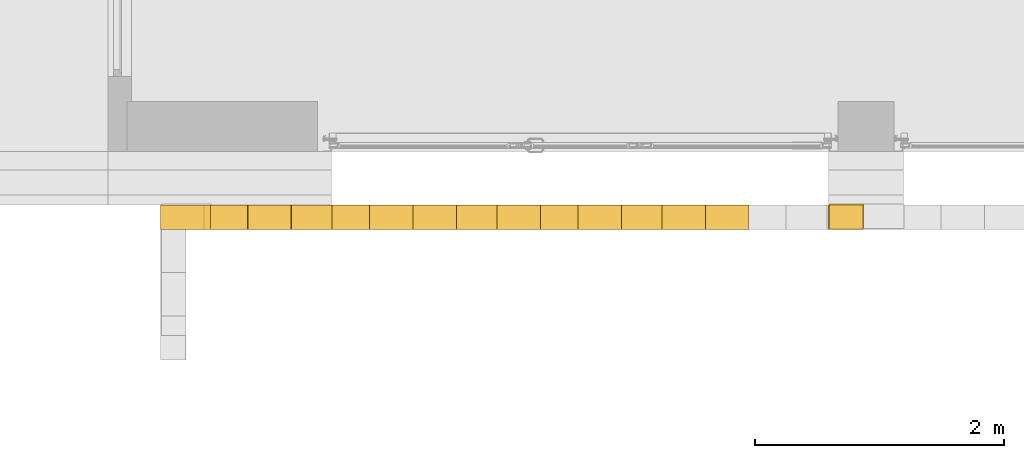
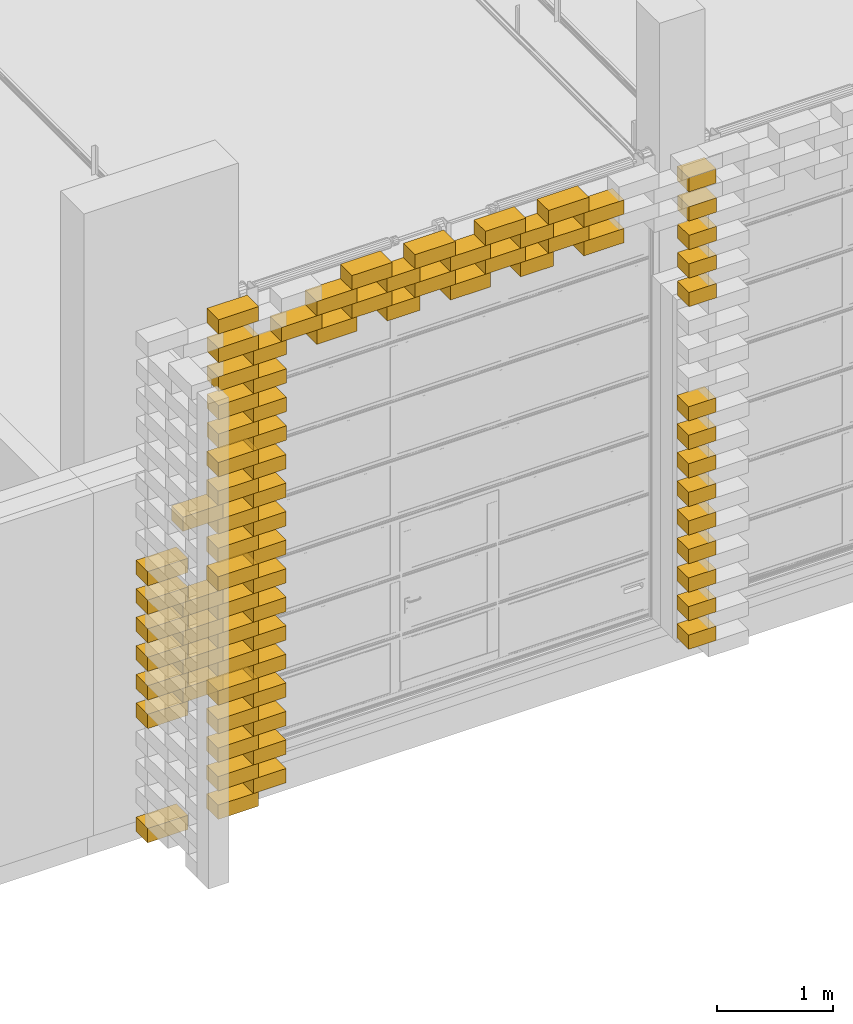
# One storey, part 51 of 62: 82 railings.
"""IFC2X3 building model written with IfcOpenShell, lengths in millimetres."""

from ifc_helpers import new_model, entity, si_unit, converted_unit, derived_unit, money_unit, direction, frame, origin_with_axes, place, context, subcontext, project, spatial, polyline, outline, extrude, material, type_object, element, save


model = new_model("IFC2X3")

# Units and contexts
model_context = context("Model", 3, precision=0.01, world=origin_with_axes(), true_north=direction((0.0, 1.0)))
body_context = subcontext(model_context, "Body", "Model", "MODEL_VIEW")
ifc_project = project(units=[si_unit("LENGTHUNIT", "METRE", prefix="MILLI"), si_unit("AREAUNIT", "SQUARE_METRE"), si_unit("VOLUMEUNIT", "CUBIC_METRE"), converted_unit("PLANEANGLEUNIT", "DEGREE", entity("IfcPlaneAngleMeasure", 0.0174532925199), si_unit("PLANEANGLEUNIT", "RADIAN"), dimensions=[0, 0, 0, 0, 0, 0, 0]), si_unit("SOLIDANGLEUNIT", "STERADIAN"), money_unit("EUR"), converted_unit("TIMEUNIT", "Year", entity("IfcTimeMeasure", 31556926.0), si_unit("TIMEUNIT", "SECOND"), dimensions=[0, 0, 1, 0, 0, 0, 0]), si_unit("MASSUNIT", "GRAM", prefix="KILO"), si_unit("THERMODYNAMICTEMPERATUREUNIT", "DEGREE_CELSIUS"), si_unit("LUMINOUSINTENSITYUNIT", "LUMEN"), si_unit("ENERGYUNIT", "JOULE", prefix="MEGA"), derived_unit("THERMALCONDUCTANCEUNIT", [(si_unit("POWERUNIT", "WATT"), 1), (si_unit("LENGTHUNIT", "METRE"), -1), (si_unit("THERMODYNAMICTEMPERATUREUNIT", "KELVIN"), -1)]), derived_unit("SPECIFICHEATCAPACITYUNIT", [(si_unit("ENERGYUNIT", "JOULE"), 1), (si_unit("MASSUNIT", "GRAM", prefix="KILO"), -1), (si_unit("THERMODYNAMICTEMPERATUREUNIT", "KELVIN"), -1)]), derived_unit("MASSDENSITYUNIT", [(si_unit("MASSUNIT", "GRAM", prefix="KILO"), 1), (si_unit("VOLUMEUNIT", "CUBIC_METRE"), -1)])], contexts=[model_context])

# Site, building, storey
site_placement = place(None, origin_with_axes())
site = spatial("IfcSite", under=ifc_project, at=site_placement, Name="KIRDE 14, ELVA", CompositionType="ELEMENT")
building_placement = place(site_placement, origin_with_axes())
building = spatial("IfcBuilding", under=site, at=building_placement, Name="PPA ja Päästeameti ühishoone", CompositionType="ELEMENT")
storey_placement = place(building_placement, origin_with_axes())
storey = spatial("IfcBuildingStorey", under=building, at=storey_placement, Name="Esimene korrus", CompositionType="ELEMENT", Elevation=0.0)

# Railings
ifc_material = material(Name="Air Space")
railing_type = type_object("IfcRailingType", Name="Air Space 200", PredefinedType="NOTDEFINED")
for number, where, z_axis, x_axis in (
    (1, (13308.1818226, -431.000101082, 5000.0), (0.0, 0.0, 1.0), (1.0, -2.32830643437e-09, 0.0)),
    (2, (10022.968101, -431.000104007, 1100.0), (0.0, 0.0, 1.0), (1.0, -2.32830643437e-09, 0.0)),
):
    element("IfcRailing", number, at=place(storey_placement, frame(where, z_axis=z_axis, x_axis=x_axis)), inside=storey, type_object=railing_type, material=ifc_material, Name="plokk", PredefinedType="NOTDEFINED", context=body_context, shape_type="SweptSolid", body=[
        extrude(outline(polyline([(0.0, -200.0), (400.000000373, -200.0), (400.000000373, 0.0), (0.0, 0.0), (0.0, -200.0)])), origin_with_axes(), (0.0, 0.0, 1.0), 150.0),
    ])
railing_1_placement = place(storey_placement, frame((11703.772551, -431.000104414, 4550.0), z_axis=(0.0, 0.0, 1.0), x_axis=(1.0, 0.0, 0.0)))
element("IfcRailing", 3, at=railing_1_placement, inside=storey, type_object=railing_type, material=ifc_material, Name="plokk", PredefinedType="NOTDEFINED", context=body_context, shape_type="SweptSolid", body=[
    extrude(outline(polyline([(0.0, -200.0), (327.204635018, -200.0), (327.204635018, 0.0), (0.0, 0.0), (0.0, -200.0)])), origin_with_axes(), (0.0, 0.0, 1.0), 150.0),
])
for number, where, z_axis, x_axis in (
    (4, (14700.1727363, -431.000104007, 50.0), (0.0, 0.0, 1.0), (1.0, 0.0, 0.0)),
    (5, (14700.1727363, -431.000104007, 950.0), (0.0, 0.0, 1.0), (1.0, 0.0, 0.0)),
    (6, (14700.1727363, -431.000104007, 650.0), (0.0, 0.0, 1.0), (1.0, 0.0, 0.0)),
):
    element("IfcRailing", number, at=place(storey_placement, frame(where, z_axis=z_axis, x_axis=x_axis)), inside=storey, type_object=railing_type, material=ifc_material, Name="plokk", PredefinedType="NOTDEFINED", context=body_context, shape_type="SweptSolid", body=[
        extrude(outline(polyline([(0.0, -200.0), (272.79536461, -200.0), (272.79536461, 0.0), (0.0, 0.0), (0.0, -200.0)])), origin_with_axes(), (0.0, 0.0, 1.0), 150.0),
    ])
railing_2_placement = place(storey_placement, frame((11703.772551, -431.000104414, 4850.0), z_axis=(0.0, 0.0, 1.0), x_axis=(1.0, 0.0, 0.0)))
element("IfcRailing", 7, at=railing_2_placement, inside=storey, type_object=railing_type, material=ifc_material, Name="plokk", PredefinedType="NOTDEFINED", context=body_context, shape_type="SweptSolid", body=[
    extrude(outline(polyline([(0.0, -200.0), (327.204635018, -200.0), (327.204635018, 0.0), (0.0, 0.0), (0.0, -200.0)])), origin_with_axes(), (0.0, 0.0, 1.0), 150.0),
])
for number, where, z_axis, x_axis in (
    (8, (14700.1727363, -431.000104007, 350.0), (0.0, 0.0, 1.0), (1.0, 0.0, 0.0)),
    (9, (14700.1727363, -431.000104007, 2450.0), (0.0, 0.0, 1.0), (1.0, 0.0, 0.0)),
):
    element("IfcRailing", number, at=place(storey_placement, frame(where, z_axis=z_axis, x_axis=x_axis)), inside=storey, type_object=railing_type, material=ifc_material, Name="plokk", PredefinedType="NOTDEFINED", context=body_context, shape_type="SweptSolid", body=[
        extrude(outline(polyline([(0.0, -200.0), (272.79536461, -200.0), (272.79536461, 0.0), (0.0, 0.0), (0.0, -200.0)])), origin_with_axes(), (0.0, 0.0, 1.0), 150.0),
    ])
railing_3_placement = place(storey_placement, frame((10026.567915, -431.000104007, 3500.0), z_axis=(0.0, 0.0, 1.0), x_axis=(1.0, -2.32830643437e-09, 0.0)))
element("IfcRailing", 10, at=railing_3_placement, inside=storey, type_object=railing_type, material=ifc_material, Name="plokk", PredefinedType="NOTDEFINED", context=body_context, shape_type="SweptSolid", body=[
    extrude(outline(polyline([(0.0, -200.0), (400.000000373, -200.0), (400.000000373, 0.0), (0.0, 0.0), (0.0, -200.0)])), origin_with_axes(), (0.0, 0.0, 1.0), 150.0),
])
railing_4_placement = place(storey_placement, frame((10372.9681008, -431.000104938, 3350.0), z_axis=(0.0, 0.0, 1.0), x_axis=(1.0, 0.0, 0.0)))
element("IfcRailing", 11, at=railing_4_placement, inside=storey, type_object=railing_type, material=ifc_material, Name="plokk", PredefinedType="NOTDEFINED", context=body_context, shape_type="SweptSolid", body=[
    extrude(outline(polyline([(0.0, -200.0), (327.204635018, -200.0), (327.204635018, 0.0), (0.0, 0.0), (0.0, -200.0)])), origin_with_axes(), (0.0, 0.0, 1.0), 150.0),
])
railing_5_placement = place(storey_placement, frame((14706.7115344, -422.760602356, 4850.0), z_axis=(0.0, 0.0, 1.0), x_axis=(1.0, 0.0, 0.0)))
element("IfcRailing", 12, at=railing_5_placement, inside=storey, type_object=railing_type, material=ifc_material, Name="plokk", PredefinedType="NOTDEFINED", context=body_context, shape_type="SweptSolid", body=[
    extrude(outline(polyline([(0.0, -200.0), (272.79536461, -200.0), (272.79536461, 0.0), (0.0, 0.0), (0.0, -200.0)])), origin_with_axes(), (0.0, 0.0, 1.0), 150.0),
])
railing_6_placement = place(storey_placement, frame((10372.9681008, -431.000104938, 2450.0), z_axis=(0.0, 0.0, 1.0), x_axis=(1.0, 0.0, 0.0)))
element("IfcRailing", 13, at=railing_6_placement, inside=storey, type_object=railing_type, material=ifc_material, Name="plokk", PredefinedType="NOTDEFINED", context=body_context, shape_type="SweptSolid", body=[
    extrude(outline(polyline([(0.0, -200.0), (327.204635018, -200.0), (327.204635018, 0.0), (0.0, 0.0), (0.0, -200.0)])), origin_with_axes(), (0.0, 0.0, 1.0), 150.0),
])
for number, where, z_axis, x_axis in (
    (14, (10026.567915, -431.000104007, 3800.0), (0.0, 0.0, 1.0), (1.0, -2.32830643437e-09, 0.0)),
    (15, (10026.567915, -431.000104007, 4100.0), (0.0, 0.0, 1.0), (1.0, -2.32830643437e-09, 0.0)),
    (16, (10026.567915, -431.000104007, 4400.0), (0.0, 0.0, 1.0), (1.0, -2.32830643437e-09, 0.0)),
):
    element("IfcRailing", number, at=place(storey_placement, frame(where, z_axis=z_axis, x_axis=x_axis)), inside=storey, type_object=railing_type, material=ifc_material, Name="plokk", PredefinedType="NOTDEFINED", context=body_context, shape_type="SweptSolid", body=[
        extrude(outline(polyline([(0.0, -200.0), (400.000000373, -200.0), (400.000000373, 0.0), (0.0, 0.0), (0.0, -200.0)])), origin_with_axes(), (0.0, 0.0, 1.0), 150.0),
    ])
railing_7_placement = place(storey_placement, frame((10376.5679148, -431.000104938, 3650.0), z_axis=(0.0, 0.0, 1.0), x_axis=(1.0, 0.0, 0.0)))
element("IfcRailing", 17, at=railing_7_placement, inside=storey, type_object=railing_type, material=ifc_material, Name="plokk", PredefinedType="NOTDEFINED", context=body_context, shape_type="SweptSolid", body=[
    extrude(outline(polyline([(0.0, -200.0), (327.204635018, -200.0), (327.204635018, 0.0), (0.0, 0.0), (0.0, -200.0)])), origin_with_axes(), (0.0, 0.0, 1.0), 150.0),
])
railing_8_placement = place(storey_placement, frame((10026.567915, -431.000104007, 4700.0), z_axis=(0.0, 0.0, 1.0), x_axis=(1.0, -2.32830643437e-09, 0.0)))
element("IfcRailing", 18, at=railing_8_placement, inside=storey, type_object=railing_type, material=ifc_material, Name="plokk", PredefinedType="NOTDEFINED", context=body_context, shape_type="SweptSolid", body=[
    extrude(outline(polyline([(0.0, -200.0), (400.000000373, -200.0), (400.000000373, 0.0), (0.0, 0.0), (0.0, -200.0)])), origin_with_axes(), (0.0, 0.0, 1.0), 150.0),
])
for number, where, z_axis, x_axis in (
    (19, (10376.5679148, -431.000104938, 3950.0), (0.0, 0.0, 1.0), (1.0, 0.0, 0.0)),
    (20, (10376.5679148, -431.000104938, 4250.0), (0.0, 0.0, 1.0), (1.0, 0.0, 0.0)),
    (21, (10376.5679148, -431.000104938, 4550.0), (0.0, 0.0, 1.0), (1.0, 0.0, 0.0)),
):
    element("IfcRailing", number, at=place(storey_placement, frame(where, z_axis=z_axis, x_axis=x_axis)), inside=storey, type_object=railing_type, material=ifc_material, Name="plokk", PredefinedType="NOTDEFINED", context=body_context, shape_type="SweptSolid", body=[
        extrude(outline(polyline([(0.0, -200.0), (327.204635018, -200.0), (327.204635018, 0.0), (0.0, 0.0), (0.0, -200.0)])), origin_with_axes(), (0.0, 0.0, 1.0), 150.0),
    ])
railing_9_placement = place(storey_placement, frame((10653.7725501, -431.000102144, 4700.0), z_axis=(0.0, 0.0, 1.0), x_axis=(1.0, -2.32830643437e-09, 0.0)))
element("IfcRailing", 22, at=railing_9_placement, inside=storey, type_object=railing_type, material=ifc_material, Name="plokk", PredefinedType="NOTDEFINED", context=body_context, shape_type="SweptSolid", body=[
    extrude(outline(polyline([(0.0, -200.0), (400.000000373, -200.0), (400.000000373, 0.0), (0.0, 0.0), (0.0, -200.0)])), origin_with_axes(), (0.0, 0.0, 1.0), 150.0),
])
railing_10_placement = place(storey_placement, frame((14703.7725503, -431.000104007, 3650.0), z_axis=(0.0, 0.0, 1.0), x_axis=(1.0, 0.0, 0.0)))
element("IfcRailing", 23, at=railing_10_placement, inside=storey, type_object=railing_type, material=ifc_material, Name="plokk", PredefinedType="NOTDEFINED", context=body_context, shape_type="SweptSolid", body=[
    extrude(outline(polyline([(0.0, -200.0), (272.79536461, -200.0), (272.79536461, 0.0), (0.0, 0.0), (0.0, -200.0)])), origin_with_axes(), (0.0, 0.0, 1.0), 150.0),
])
railing_11_placement = place(storey_placement, frame((10372.9681008, -431.000104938, 3050.0), z_axis=(0.0, 0.0, 1.0), x_axis=(1.0, 0.0, 0.0)))
element("IfcRailing", 24, at=railing_11_placement, inside=storey, type_object=railing_type, material=ifc_material, Name="plokk", PredefinedType="NOTDEFINED", context=body_context, shape_type="SweptSolid", body=[
    extrude(outline(polyline([(0.0, -200.0), (327.204635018, -200.0), (327.204635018, 0.0), (0.0, 0.0), (0.0, -200.0)])), origin_with_axes(), (0.0, 0.0, 1.0), 150.0),
])
for number, where, z_axis, x_axis in (
    (25, (14703.7725503, -431.000104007, 4550.0), (0.0, 0.0, 1.0), (1.0, 0.0, 0.0)),
    (26, (14703.7725503, -431.000104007, 4250.0), (0.0, 0.0, 1.0), (1.0, 0.0, 0.0)),
    (27, (14703.7725503, -431.000104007, 3950.0), (0.0, 0.0, 1.0), (1.0, 0.0, 0.0)),
):
    element("IfcRailing", number, at=place(storey_placement, frame(where, z_axis=z_axis, x_axis=x_axis)), inside=storey, type_object=railing_type, material=ifc_material, Name="plokk", PredefinedType="NOTDEFINED", context=body_context, shape_type="SweptSolid", body=[
        extrude(outline(polyline([(0.0, -200.0), (272.79536461, -200.0), (272.79536461, 0.0), (0.0, 0.0), (0.0, -200.0)])), origin_with_axes(), (0.0, 0.0, 1.0), 150.0),
    ])
for number, where, z_axis, x_axis in (
    (28, (10026.567915, -431.000104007, 5000.0), (0.0, 0.0, 1.0), (1.0, -2.32830643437e-09, 0.0)),
    (29, (10022.968101, -431.000104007, 500.0), (0.0, 0.0, 1.0), (1.0, -2.32830643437e-09, 0.0)),
    (30, (10022.968101, -431.000104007, 800.0), (0.0, 0.0, 1.0), (1.0, -2.32830643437e-09, 0.0)),
):
    element("IfcRailing", number, at=place(storey_placement, frame(where, z_axis=z_axis, x_axis=x_axis)), inside=storey, type_object=railing_type, material=ifc_material, Name="plokk", PredefinedType="NOTDEFINED", context=body_context, shape_type="SweptSolid", body=[
        extrude(outline(polyline([(0.0, -200.0), (400.000000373, -200.0), (400.000000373, 0.0), (0.0, 0.0), (0.0, -200.0)])), origin_with_axes(), (0.0, 0.0, 1.0), 150.0),
    ])
railing_12_placement = place(storey_placement, frame((12330.977188, -431.000104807, 4850.0), z_axis=(0.0, 0.0, 1.0), x_axis=(1.0, -2.32830643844e-09, 0.0)))
element("IfcRailing", 31, at=railing_12_placement, inside=storey, type_object=railing_type, material=ifc_material, Name="plokk", PredefinedType="NOTDEFINED", context=body_context, shape_type="SweptSolid", body=[
    extrude(outline(polyline([(0.0, -200.0), (399.999999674, -200.0), (399.999999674, 0.0), (0.0, 0.0), (0.0, -200.0)])), origin_with_axes(), (0.0, 0.0, 1.0), 150.0),
])
for number, where, z_axis, x_axis in (
    (32, (10022.968101, -431.000104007, 200.0), (0.0, 0.0, 1.0), (1.0, -2.32830643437e-09, 0.0)),
    (33, (10022.968101, -431.000104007, 2300.0), (0.0, 0.0, 1.0), (1.0, -2.32830643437e-09, 0.0)),
):
    element("IfcRailing", number, at=place(storey_placement, frame(where, z_axis=z_axis, x_axis=x_axis)), inside=storey, type_object=railing_type, material=ifc_material, Name="plokk", PredefinedType="NOTDEFINED", context=body_context, shape_type="SweptSolid", body=[
        extrude(outline(polyline([(0.0, -200.0), (400.000000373, -200.0), (400.000000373, 0.0), (0.0, 0.0), (0.0, -200.0)])), origin_with_axes(), (0.0, 0.0, 1.0), 150.0),
    ])
railing_13_placement = place(storey_placement, frame((13658.1818243, -431.000104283, 4550.0), z_axis=(0.0, 0.0, 1.0), x_axis=(1.0, -2.32830643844e-09, 0.0)))
element("IfcRailing", 34, at=railing_13_placement, inside=storey, type_object=railing_type, material=ifc_material, Name="plokk", PredefinedType="NOTDEFINED", context=body_context, shape_type="SweptSolid", body=[
    extrude(outline(polyline([(0.0, -200.0), (399.999999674, -200.0), (399.999999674, 0.0), (0.0, 0.0), (0.0, -200.0)])), origin_with_axes(), (0.0, 0.0, 1.0), 150.0),
])
railing_14_placement = place(storey_placement, frame((13308.1818226, -431.000101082, 4700.0), z_axis=(0.0, 0.0, 1.0), x_axis=(1.0, -2.32830643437e-09, 0.0)))
element("IfcRailing", 35, at=railing_14_placement, inside=storey, type_object=railing_type, material=ifc_material, Name="plokk", PredefinedType="NOTDEFINED", context=body_context, shape_type="SweptSolid", body=[
    extrude(outline(polyline([(0.0, -200.0), (400.000000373, -200.0), (400.000000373, 0.0), (0.0, 0.0), (0.0, -200.0)])), origin_with_axes(), (0.0, 0.0, 1.0), 150.0),
])
railing_15_placement = place(storey_placement, frame((10372.9681008, -431.000104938, 2750.0), z_axis=(0.0, 0.0, 1.0), x_axis=(1.0, 0.0, 0.0)))
element("IfcRailing", 36, at=railing_15_placement, inside=storey, type_object=railing_type, material=ifc_material, Name="plokk", PredefinedType="NOTDEFINED", context=body_context, shape_type="SweptSolid", body=[
    extrude(outline(polyline([(0.0, -200.0), (327.204635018, -200.0), (327.204635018, 0.0), (0.0, 0.0), (0.0, -200.0)])), origin_with_axes(), (0.0, 0.0, 1.0), 150.0),
])
railing_16_placement = place(storey_placement, frame((10022.968101, -431.000104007, 3500.0), z_axis=(0.0, 0.0, 1.0), x_axis=(1.0, -2.32830643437e-09, 0.0)))
element("IfcRailing", 37, at=railing_16_placement, inside=storey, type_object=railing_type, material=ifc_material, Name="plokk", PredefinedType="NOTDEFINED", context=body_context, shape_type="SweptSolid", body=[
    extrude(outline(polyline([(0.0, -200.0), (400.000000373, -200.0), (400.000000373, 0.0), (0.0, 0.0), (0.0, -200.0)])), origin_with_axes(), (0.0, 0.0, 1.0), 150.0),
])
railing_17_placement = place(storey_placement, frame((13030.9771873, -431.000103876, 4850.0), z_axis=(0.0, 0.0, 1.0), x_axis=(1.0, 0.0, 0.0)))
element("IfcRailing", 38, at=railing_17_placement, inside=storey, type_object=railing_type, material=ifc_material, Name="plokk", PredefinedType="NOTDEFINED", context=body_context, shape_type="SweptSolid", body=[
    extrude(outline(polyline([(0.0, -200.0), (327.204635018, -200.0), (327.204635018, 0.0), (0.0, 0.0), (0.0, -200.0)])), origin_with_axes(), (0.0, 0.0, 1.0), 150.0),
])
railing_18_placement = place(storey_placement, frame((12680.9771875, -431.000102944, 5000.0), z_axis=(0.0, 0.0, 1.0), x_axis=(1.0, -2.32830643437e-09, 0.0)))
element("IfcRailing", 39, at=railing_18_placement, inside=storey, type_object=railing_type, material=ifc_material, Name="plokk", PredefinedType="NOTDEFINED", context=body_context, shape_type="SweptSolid", body=[
    extrude(outline(polyline([(0.0, -200.0), (400.000000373, -200.0), (400.000000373, 0.0), (0.0, 0.0), (0.0, -200.0)])), origin_with_axes(), (0.0, 0.0, 1.0), 150.0),
])
for number, where, z_axis, x_axis in (
    (40, (14700.1727363, -431.000104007, 1550.0), (0.0, 0.0, 1.0), (1.0, 0.0, 0.0)),
    (41, (14700.1727363, -431.000104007, 1250.0), (0.0, 0.0, 1.0), (1.0, 0.0, 0.0)),
    (42, (14700.1727363, -431.000104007, 1850.0), (0.0, 0.0, 1.0), (1.0, 0.0, 0.0)),
):
    element("IfcRailing", number, at=place(storey_placement, frame(where, z_axis=z_axis, x_axis=x_axis)), inside=storey, type_object=railing_type, material=ifc_material, Name="plokk", PredefinedType="NOTDEFINED", context=body_context, shape_type="SweptSolid", body=[
        extrude(outline(polyline([(0.0, -200.0), (272.79536461, -200.0), (272.79536461, 0.0), (0.0, 0.0), (0.0, -200.0)])), origin_with_axes(), (0.0, 0.0, 1.0), 150.0),
    ])
railing_19_placement = place(storey_placement, frame((11980.9771864, -431.00010162, 5000.0), z_axis=(0.0, 0.0, 1.0), x_axis=(1.0, -2.32830643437e-09, 0.0)))
element("IfcRailing", 43, at=railing_19_placement, inside=storey, type_object=railing_type, material=ifc_material, Name="plokk", PredefinedType="NOTDEFINED", context=body_context, shape_type="SweptSolid", body=[
    extrude(outline(polyline([(0.0, -200.0), (400.000000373, -200.0), (400.000000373, 0.0), (0.0, 0.0), (0.0, -200.0)])), origin_with_axes(), (0.0, 0.0, 1.0), 150.0),
])
railing_20_placement = place(storey_placement, frame((11003.7725518, -431.000105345, 4850.0), z_axis=(0.0, 0.0, 1.0), x_axis=(1.0, -2.32830643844e-09, 0.0)))
element("IfcRailing", 44, at=railing_20_placement, inside=storey, type_object=railing_type, material=ifc_material, Name="plokk", PredefinedType="NOTDEFINED", context=body_context, shape_type="SweptSolid", body=[
    extrude(outline(polyline([(0.0, -200.0), (399.999999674, -200.0), (399.999999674, 0.0), (0.0, 0.0), (0.0, -200.0)])), origin_with_axes(), (0.0, 0.0, 1.0), 150.0),
])
for number, where, z_axis, x_axis in (
    (45, (10022.968101, -431.000104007, 2900.0), (0.0, 0.0, 1.0), (1.0, -2.32830643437e-09, 0.0)),
    (46, (11353.7725513, -431.000103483, 5000.0), (0.0, 0.0, 1.0), (1.0, -2.32830643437e-09, 0.0)),
):
    element("IfcRailing", number, at=place(storey_placement, frame(where, z_axis=z_axis, x_axis=x_axis)), inside=storey, type_object=railing_type, material=ifc_material, Name="plokk", PredefinedType="NOTDEFINED", context=body_context, shape_type="SweptSolid", body=[
        extrude(outline(polyline([(0.0, -200.0), (400.000000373, -200.0), (400.000000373, 0.0), (0.0, 0.0), (0.0, -200.0)])), origin_with_axes(), (0.0, 0.0, 1.0), 150.0),
    ])
railing_21_placement = place(storey_placement, frame((13030.9771873, -431.000103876, 4550.0), z_axis=(0.0, 0.0, 1.0), x_axis=(1.0, 0.0, 0.0)))
element("IfcRailing", 47, at=railing_21_placement, inside=storey, type_object=railing_type, material=ifc_material, Name="plokk", PredefinedType="NOTDEFINED", context=body_context, shape_type="SweptSolid", body=[
    extrude(outline(polyline([(0.0, -200.0), (327.204635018, -200.0), (327.204635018, 0.0), (0.0, 0.0), (0.0, -200.0)])), origin_with_axes(), (0.0, 0.0, 1.0), 150.0),
])
railing_22_placement = place(storey_placement, frame((12680.9771875, -431.000102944, 4700.0), z_axis=(0.0, 0.0, 1.0), x_axis=(1.0, -2.32830643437e-09, 0.0)))
element("IfcRailing", 48, at=railing_22_placement, inside=storey, type_object=railing_type, material=ifc_material, Name="plokk", PredefinedType="NOTDEFINED", context=body_context, shape_type="SweptSolid", body=[
    extrude(outline(polyline([(0.0, -200.0), (400.000000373, -200.0), (400.000000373, 0.0), (0.0, 0.0), (0.0, -200.0)])), origin_with_axes(), (0.0, 0.0, 1.0), 150.0),
])
railing_23_placement = place(storey_placement, frame((14700.1727363, -431.000104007, 2150.0), z_axis=(0.0, 0.0, 1.0), x_axis=(1.0, 0.0, 0.0)))
element("IfcRailing", 49, at=railing_23_placement, inside=storey, type_object=railing_type, material=ifc_material, Name="plokk", PredefinedType="NOTDEFINED", context=body_context, shape_type="SweptSolid", body=[
    extrude(outline(polyline([(0.0, -200.0), (272.79536461, -200.0), (272.79536461, 0.0), (0.0, 0.0), (0.0, -200.0)])), origin_with_axes(), (0.0, 0.0, 1.0), 150.0),
])
railing_24_placement = place(storey_placement, frame((11003.7725518, -431.000105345, 4550.0), z_axis=(0.0, 0.0, 1.0), x_axis=(1.0, -2.32830643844e-09, 0.0)))
element("IfcRailing", 50, at=railing_24_placement, inside=storey, type_object=railing_type, material=ifc_material, Name="plokk", PredefinedType="NOTDEFINED", context=body_context, shape_type="SweptSolid", body=[
    extrude(outline(polyline([(0.0, -200.0), (399.999999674, -200.0), (399.999999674, 0.0), (0.0, 0.0), (0.0, -200.0)])), origin_with_axes(), (0.0, 0.0, 1.0), 150.0),
])
railing_25_placement = place(storey_placement, frame((10022.968101, -431.000104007, 3200.0), z_axis=(0.0, 0.0, 1.0), x_axis=(1.0, -2.32830643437e-09, 0.0)))
element("IfcRailing", 51, at=railing_25_placement, inside=storey, type_object=railing_type, material=ifc_material, Name="plokk", PredefinedType="NOTDEFINED", context=body_context, shape_type="SweptSolid", body=[
    extrude(outline(polyline([(0.0, -200.0), (400.000000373, -200.0), (400.000000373, 0.0), (0.0, 0.0), (0.0, -200.0)])), origin_with_axes(), (0.0, 0.0, 1.0), 150.0),
])
for number, where, z_axis, x_axis in (
    (52, (10372.9681008, -431.000104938, 950.0), (0.0, 0.0, 1.0), (1.0, 0.0, 0.0)),
    (53, (10372.9681008, -431.000104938, 650.0), (0.0, 0.0, 1.0), (1.0, 0.0, 0.0)),
    (54, (10372.9681008, -431.000104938, 350.0), (0.0, 0.0, 1.0), (1.0, 0.0, 0.0)),
    (55, (10372.9681008, -431.000104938, 50.0), (0.0, 0.0, 1.0), (1.0, 0.0, 0.0)),
):
    element("IfcRailing", number, at=place(storey_placement, frame(where, z_axis=z_axis, x_axis=x_axis)), inside=storey, type_object=railing_type, material=ifc_material, Name="plokk", PredefinedType="NOTDEFINED", context=body_context, shape_type="SweptSolid", body=[
        extrude(outline(polyline([(0.0, -200.0), (327.204635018, -200.0), (327.204635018, 0.0), (0.0, 0.0), (0.0, -200.0)])), origin_with_axes(), (0.0, 0.0, 1.0), 150.0),
    ])
for number, where, z_axis, x_axis in (
    (56, (11353.7725513, -431.000103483, 4700.0), (0.0, 0.0, 1.0), (1.0, -2.32830643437e-09, 0.0)),
    (57, (11980.9771864, -431.00010162, 4700.0), (0.0, 0.0, 1.0), (1.0, -2.32830643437e-09, 0.0)),
    (58, (10022.968101, -431.000104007, -100.0), (0.0, 0.0, 1.0), (1.0, -2.32830643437e-09, 0.0)),
):
    element("IfcRailing", number, at=place(storey_placement, frame(where, z_axis=z_axis, x_axis=x_axis)), inside=storey, type_object=railing_type, material=ifc_material, Name="plokk", PredefinedType="NOTDEFINED", context=body_context, shape_type="SweptSolid", body=[
        extrude(outline(polyline([(0.0, -200.0), (400.000000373, -200.0), (400.000000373, 0.0), (0.0, 0.0), (0.0, -200.0)])), origin_with_axes(), (0.0, 0.0, 1.0), 150.0),
    ])
railing_26_placement = place(storey_placement, frame((9322.96810061, -431.000104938, -100.0), z_axis=(0.0, 0.0, 1.0), x_axis=(1.0, -2.32830643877e-09, 0.0)))
element("IfcRailing", 59, at=railing_26_placement, inside=storey, type_object=railing_type, material=ifc_material, Name="plokk", PredefinedType="NOTDEFINED", context=body_context, shape_type="SweptSolid", body=[
    extrude(outline(polyline([(0.0, -200.0), (399.999999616, -200.0), (399.999999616, 0.0), (0.0, 0.0), (0.0, -200.0)])), origin_with_axes(), (0.0, 0.0, 1.0), 150.0),
])
railing_27_placement = place(storey_placement, frame((13658.1818243, -431.000104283, 4850.0), z_axis=(0.0, 0.0, 1.0), x_axis=(1.0, -2.32830643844e-09, 0.0)))
element("IfcRailing", 60, at=railing_27_placement, inside=storey, type_object=railing_type, material=ifc_material, Name="plokk", PredefinedType="NOTDEFINED", context=body_context, shape_type="SweptSolid", body=[
    extrude(outline(polyline([(0.0, -200.0), (399.999999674, -200.0), (399.999999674, 0.0), (0.0, 0.0), (0.0, -200.0)])), origin_with_axes(), (0.0, 0.0, 1.0), 150.0),
])
railing_28_placement = place(storey_placement, frame((10372.9681008, -431.000104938, 1550.0), z_axis=(0.0, 0.0, 1.0), x_axis=(1.0, 0.0, 0.0)))
element("IfcRailing", 61, at=railing_28_placement, inside=storey, type_object=railing_type, material=ifc_material, Name="plokk", PredefinedType="NOTDEFINED", context=body_context, shape_type="SweptSolid", body=[
    extrude(outline(polyline([(0.0, -200.0), (327.204635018, -200.0), (327.204635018, 0.0), (0.0, 0.0), (0.0, -200.0)])), origin_with_axes(), (0.0, 0.0, 1.0), 150.0),
])
railing_29_placement = place(storey_placement, frame((9322.96810061, -431.000104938, 2300.0), z_axis=(0.0, 0.0, 1.0), x_axis=(1.0, -2.32830643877e-09, 0.0)))
element("IfcRailing", 62, at=railing_29_placement, inside=storey, type_object=railing_type, material=ifc_material, Name="plokk", PredefinedType="NOTDEFINED", context=body_context, shape_type="SweptSolid", body=[
    extrude(outline(polyline([(0.0, -200.0), (399.999999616, -200.0), (399.999999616, 0.0), (0.0, 0.0), (0.0, -200.0)])), origin_with_axes(), (0.0, 0.0, 1.0), 150.0),
])
railing_30_placement = place(storey_placement, frame((10372.9681008, -431.000104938, 1850.0), z_axis=(0.0, 0.0, 1.0), x_axis=(1.0, 0.0, 0.0)))
element("IfcRailing", 63, at=railing_30_placement, inside=storey, type_object=railing_type, material=ifc_material, Name="plokk", PredefinedType="NOTDEFINED", context=body_context, shape_type="SweptSolid", body=[
    extrude(outline(polyline([(0.0, -200.0), (327.204635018, -200.0), (327.204635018, 0.0), (0.0, 0.0), (0.0, -200.0)])), origin_with_axes(), (0.0, 0.0, 1.0), 150.0),
])
railing_31_placement = place(storey_placement, frame((10022.968101, -431.000104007, 2300.0), z_axis=(0.0, 0.0, 1.0), x_axis=(1.0, -2.32830643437e-09, 0.0)))
element("IfcRailing", 64, at=railing_31_placement, inside=storey, type_object=railing_type, material=ifc_material, Name="plokk", PredefinedType="NOTDEFINED", context=body_context, shape_type="SweptSolid", body=[
    extrude(outline(polyline([(0.0, -200.0), (400.000000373, -200.0), (400.000000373, 0.0), (0.0, 0.0), (0.0, -200.0)])), origin_with_axes(), (0.0, 0.0, 1.0), 150.0),
])
railing_32_placement = place(storey_placement, frame((9672.96810151, -431.000105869, 2150.0), z_axis=(0.0, 0.0, 1.0), x_axis=(1.0, -2.32830643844e-09, 0.0)))
element("IfcRailing", 65, at=railing_32_placement, inside=storey, type_object=railing_type, material=ifc_material, Name="plokk", PredefinedType="NOTDEFINED", context=body_context, shape_type="SweptSolid", body=[
    extrude(outline(polyline([(0.0, -200.0), (399.999999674, -200.0), (399.999999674, 0.0), (0.0, 0.0), (0.0, -200.0)])), origin_with_axes(), (0.0, 0.0, 1.0), 150.0),
])
for number, where, z_axis, x_axis in (
    (66, (10022.968101, -431.000104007, 2000.0), (0.0, 0.0, 1.0), (1.0, -2.32830643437e-09, 0.0)),
    (67, (10022.968101, -431.000104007, 2600.0), (0.0, 0.0, 1.0), (1.0, -2.32830643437e-09, 0.0)),
):
    element("IfcRailing", number, at=place(storey_placement, frame(where, z_axis=z_axis, x_axis=x_axis)), inside=storey, type_object=railing_type, material=ifc_material, Name="plokk", PredefinedType="NOTDEFINED", context=body_context, shape_type="SweptSolid", body=[
        extrude(outline(polyline([(0.0, -200.0), (400.000000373, -200.0), (400.000000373, 0.0), (0.0, 0.0), (0.0, -200.0)])), origin_with_axes(), (0.0, 0.0, 1.0), 150.0),
    ])
for number, where, z_axis, x_axis in (
    (68, (10372.9681008, -431.000104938, 2150.0), (0.0, 0.0, 1.0), (1.0, 0.0, 0.0)),
    (69, (10372.9681008, -431.000104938, 1250.0), (0.0, 0.0, 1.0), (1.0, 0.0, 0.0)),
):
    element("IfcRailing", number, at=place(storey_placement, frame(where, z_axis=z_axis, x_axis=x_axis)), inside=storey, type_object=railing_type, material=ifc_material, Name="plokk", PredefinedType="NOTDEFINED", context=body_context, shape_type="SweptSolid", body=[
        extrude(outline(polyline([(0.0, -200.0), (327.204635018, -200.0), (327.204635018, 0.0), (0.0, 0.0), (0.0, -200.0)])), origin_with_axes(), (0.0, 0.0, 1.0), 150.0),
    ])
railing_33_placement = place(storey_placement, frame((9322.96810061, -431.000104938, 2600.0), z_axis=(0.0, 0.0, 1.0), x_axis=(1.0, -2.32830643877e-09, 0.0)))
element("IfcRailing", 70, at=railing_33_placement, inside=storey, type_object=railing_type, material=ifc_material, Name="plokk", PredefinedType="NOTDEFINED", context=body_context, shape_type="SweptSolid", body=[
    extrude(outline(polyline([(0.0, -200.0), (399.999999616, -200.0), (399.999999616, 0.0), (0.0, 0.0), (0.0, -200.0)])), origin_with_axes(), (0.0, 0.0, 1.0), 150.0),
])
railing_34_placement = place(storey_placement, frame((12330.977188, -431.000104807, 4550.0), z_axis=(0.0, 0.0, 1.0), x_axis=(1.0, -2.32830643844e-09, 0.0)))
element("IfcRailing", 71, at=railing_34_placement, inside=storey, type_object=railing_type, material=ifc_material, Name="plokk", PredefinedType="NOTDEFINED", context=body_context, shape_type="SweptSolid", body=[
    extrude(outline(polyline([(0.0, -200.0), (399.999999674, -200.0), (399.999999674, 0.0), (0.0, 0.0), (0.0, -200.0)])), origin_with_axes(), (0.0, 0.0, 1.0), 150.0),
])
railing_35_placement = place(storey_placement, frame((9322.96810061, -431.000104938, 2000.0), z_axis=(0.0, 0.0, 1.0), x_axis=(1.0, -2.32830643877e-09, 0.0)))
element("IfcRailing", 72, at=railing_35_placement, inside=storey, type_object=railing_type, material=ifc_material, Name="plokk", PredefinedType="NOTDEFINED", context=body_context, shape_type="SweptSolid", body=[
    extrude(outline(polyline([(0.0, -200.0), (399.999999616, -200.0), (399.999999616, 0.0), (0.0, 0.0), (0.0, -200.0)])), origin_with_axes(), (0.0, 0.0, 1.0), 150.0),
])
railing_36_placement = place(storey_placement, frame((9672.96810151, -431.000105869, 1850.0), z_axis=(0.0, 0.0, 1.0), x_axis=(1.0, -2.32830643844e-09, 0.0)))
element("IfcRailing", 73, at=railing_36_placement, inside=storey, type_object=railing_type, material=ifc_material, Name="plokk", PredefinedType="NOTDEFINED", context=body_context, shape_type="SweptSolid", body=[
    extrude(outline(polyline([(0.0, -200.0), (399.999999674, -200.0), (399.999999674, 0.0), (0.0, 0.0), (0.0, -200.0)])), origin_with_axes(), (0.0, 0.0, 1.0), 150.0),
])
railing_37_placement = place(storey_placement, frame((10022.968101, -431.000104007, 1700.0), z_axis=(0.0, 0.0, 1.0), x_axis=(1.0, -2.32830643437e-09, 0.0)))
element("IfcRailing", 74, at=railing_37_placement, inside=storey, type_object=railing_type, material=ifc_material, Name="plokk", PredefinedType="NOTDEFINED", context=body_context, shape_type="SweptSolid", body=[
    extrude(outline(polyline([(0.0, -200.0), (400.000000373, -200.0), (400.000000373, 0.0), (0.0, 0.0), (0.0, -200.0)])), origin_with_axes(), (0.0, 0.0, 1.0), 150.0),
])
railing_38_placement = place(storey_placement, frame((9322.96810061, -431.000104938, 1700.0), z_axis=(0.0, 0.0, 1.0), x_axis=(1.0, -2.32830643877e-09, 0.0)))
element("IfcRailing", 75, at=railing_38_placement, inside=storey, type_object=railing_type, material=ifc_material, Name="plokk", PredefinedType="NOTDEFINED", context=body_context, shape_type="SweptSolid", body=[
    extrude(outline(polyline([(0.0, -200.0), (399.999999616, -200.0), (399.999999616, 0.0), (0.0, 0.0), (0.0, -200.0)])), origin_with_axes(), (0.0, 0.0, 1.0), 150.0),
])
railing_39_placement = place(storey_placement, frame((9672.96810151, -431.000105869, 1550.0), z_axis=(0.0, 0.0, 1.0), x_axis=(1.0, -2.32830643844e-09, 0.0)))
element("IfcRailing", 76, at=railing_39_placement, inside=storey, type_object=railing_type, material=ifc_material, Name="plokk", PredefinedType="NOTDEFINED", context=body_context, shape_type="SweptSolid", body=[
    extrude(outline(polyline([(0.0, -200.0), (399.999999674, -200.0), (399.999999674, 0.0), (0.0, 0.0), (0.0, -200.0)])), origin_with_axes(), (0.0, 0.0, 1.0), 150.0),
])
railing_40_placement = place(storey_placement, frame((10022.968101, -431.000104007, 1400.0), z_axis=(0.0, 0.0, 1.0), x_axis=(1.0, -2.32830643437e-09, 0.0)))
element("IfcRailing", 77, at=railing_40_placement, inside=storey, type_object=railing_type, material=ifc_material, Name="plokk", PredefinedType="NOTDEFINED", context=body_context, shape_type="SweptSolid", body=[
    extrude(outline(polyline([(0.0, -200.0), (400.000000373, -200.0), (400.000000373, 0.0), (0.0, 0.0), (0.0, -200.0)])), origin_with_axes(), (0.0, 0.0, 1.0), 150.0),
])
railing_41_placement = place(storey_placement, frame((9322.96810061, -431.000104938, 1400.0), z_axis=(0.0, 0.0, 1.0), x_axis=(1.0, -2.32830643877e-09, 0.0)))
element("IfcRailing", 78, at=railing_41_placement, inside=storey, type_object=railing_type, material=ifc_material, Name="plokk", PredefinedType="NOTDEFINED", context=body_context, shape_type="SweptSolid", body=[
    extrude(outline(polyline([(0.0, -200.0), (399.999999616, -200.0), (399.999999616, 0.0), (0.0, 0.0), (0.0, -200.0)])), origin_with_axes(), (0.0, 0.0, 1.0), 150.0),
])
for number, where, z_axis, x_axis in (
    (79, (9672.96810151, -431.000105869, 1250.0), (0.0, 0.0, 1.0), (1.0, -2.32830643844e-09, 0.0)),
    (80, (9672.96810151, -431.000105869, 3050.0), (0.0, 0.0, 1.0), (1.0, -2.32830643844e-09, 0.0)),
):
    element("IfcRailing", number, at=place(storey_placement, frame(where, z_axis=z_axis, x_axis=x_axis)), inside=storey, type_object=railing_type, material=ifc_material, Name="plokk", PredefinedType="NOTDEFINED", context=body_context, shape_type="SweptSolid", body=[
        extrude(outline(polyline([(0.0, -200.0), (399.999999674, -200.0), (399.999999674, 0.0), (0.0, 0.0), (0.0, -200.0)])), origin_with_axes(), (0.0, 0.0, 1.0), 150.0),
    ])
railing_42_placement = place(storey_placement, frame((9322.96810061, -431.000104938, 1100.0), z_axis=(0.0, 0.0, 1.0), x_axis=(1.0, -2.32830643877e-09, 0.0)))
element("IfcRailing", 81, at=railing_42_placement, inside=storey, type_object=railing_type, material=ifc_material, Name="plokk", PredefinedType="NOTDEFINED", context=body_context, shape_type="SweptSolid", body=[
    extrude(outline(polyline([(0.0, -200.0), (399.999999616, -200.0), (399.999999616, 0.0), (0.0, 0.0), (0.0, -200.0)])), origin_with_axes(), (0.0, 0.0, 1.0), 150.0),
])
railing_43_placement = place(storey_placement, frame((10022.968101, -431.000104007, 1100.0), z_axis=(0.0, 0.0, 1.0), x_axis=(1.0, -2.32830643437e-09, 0.0)))
element("IfcRailing", 82, at=railing_43_placement, inside=storey, type_object=railing_type, material=ifc_material, Name="plokk", PredefinedType="NOTDEFINED", context=body_context, shape_type="SweptSolid", body=[
    extrude(outline(polyline([(0.0, -200.0), (400.000000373, -200.0), (400.000000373, 0.0), (0.0, 0.0), (0.0, -200.0)])), origin_with_axes(), (0.0, 0.0, 1.0), 150.0),
])

save(model, "model.ifc")
